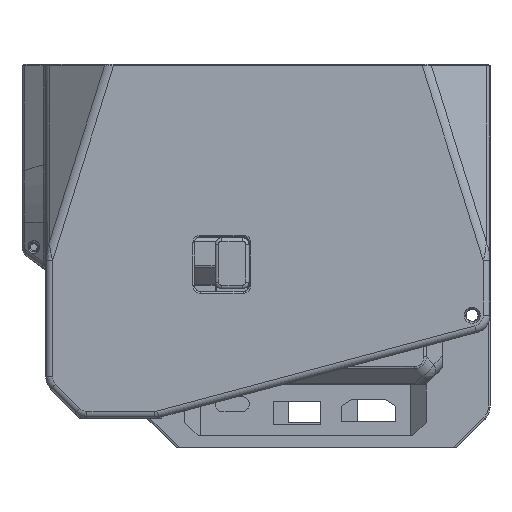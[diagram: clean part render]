
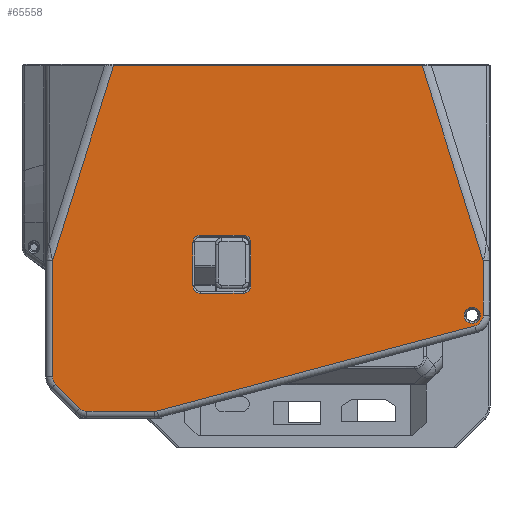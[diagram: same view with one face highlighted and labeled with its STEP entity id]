
A CAD part, left-side view. The second image highlights one B-rep face of the part: STEP entity #65558.
In plain terms, the highlighted planar face has unit normal (-1, 0, 0).
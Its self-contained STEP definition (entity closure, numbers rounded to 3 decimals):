
#415=FACE_BOUND('',#10939,.T.);
#416=FACE_BOUND('',#10940,.T.);
#1441=B_SPLINE_CURVE_WITH_KNOTS('',3,(#97196,#97197,#97198,#97199),
 .UNSPECIFIED.,.F.,.F.,(4,4),(1.528,1.571),
 .UNSPECIFIED.);
#1445=B_SPLINE_CURVE_WITH_KNOTS('',3,(#97250,#97251,#97252,#97253),
 .UNSPECIFIED.,.F.,.F.,(4,4),(-1.571,-1.528),
 .UNSPECIFIED.);
#2497=CIRCLE('',#70015,2.375);
#2501=CIRCLE('',#70021,2.25);
#2504=CIRCLE('',#70026,2.25);
#2507=CIRCLE('',#70031,2.25);
#2509=CIRCLE('',#70035,2.25);
#2512=CIRCLE('',#70040,2.75);
#2515=CIRCLE('',#70045,3.);
#2518=CIRCLE('',#70050,3.);
#2572=CIRCLE('',#70151,3.25);
#6861=FACE_OUTER_BOUND('',#10938,.T.);
#10938=EDGE_LOOP('',(#46404,#46405,#46406,#46407,#46408,#46409,#46410,#46411,
#46412,#46413,#46414,#46415,#46416,#46417));
#10939=EDGE_LOOP('',(#46418,#46419,#46420,#46421,#46422,#46423,#46424,#46425));
#10940=EDGE_LOOP('',(#46426));
#14662=LINE('',#97175,#20903);
#15409=LINE('',#103367,#21650);
#15410=LINE('',#103375,#21651);
#15411=LINE('',#103383,#21652);
#15412=LINE('',#103390,#21653);
#15413=LINE('',#103398,#21654);
#15414=LINE('',#103406,#21655);
#15415=LINE('',#103414,#21656);
#15416=LINE('',#103444,#21657);
#15437=LINE('',#103661,#21678);
#15438=LINE('',#103663,#21679);
#15439=LINE('',#103664,#21680);
#20903=VECTOR('',#76158,10.);
#21650=VECTOR('',#78977,10.);
#21651=VECTOR('',#78988,10.);
#21652=VECTOR('',#78999,10.);
#21653=VECTOR('',#79008,10.);
#21654=VECTOR('',#79019,10.);
#21655=VECTOR('',#79030,10.);
#21656=VECTOR('',#79041,10.);
#21657=VECTOR('',#79056,10.);
#21678=VECTOR('',#79283,10.);
#21679=VECTOR('',#79286,10.);
#21680=VECTOR('',#79287,10.);
#27163=VERTEX_POINT('',#97129);
#27167=VERTEX_POINT('',#97168);
#27170=VERTEX_POINT('',#97173);
#27172=VERTEX_POINT('',#97217);
#28049=VERTEX_POINT('',#103359);
#28050=VERTEX_POINT('',#103363);
#28051=VERTEX_POINT('',#103365);
#28052=VERTEX_POINT('',#103369);
#28053=VERTEX_POINT('',#103373);
#28054=VERTEX_POINT('',#103377);
#28055=VERTEX_POINT('',#103381);
#28056=VERTEX_POINT('',#103385);
#28057=VERTEX_POINT('',#103389);
#28058=VERTEX_POINT('',#103395);
#28059=VERTEX_POINT('',#103397);
#28060=VERTEX_POINT('',#103401);
#28061=VERTEX_POINT('',#103405);
#28062=VERTEX_POINT('',#103409);
#28063=VERTEX_POINT('',#103413);
#28064=VERTEX_POINT('',#103417);
#28065=VERTEX_POINT('',#103440);
#28095=VERTEX_POINT('',#103627);
#28098=VERTEX_POINT('',#103654);
#33347=EDGE_CURVE('',#27170,#27167,#14662,.T.);
#33349=EDGE_CURVE('',#27163,#27170,#1441,.T.);
#33355=EDGE_CURVE('',#27167,#27172,#1445,.T.);
#34777=EDGE_CURVE('',#28049,#28049,#2497,.T.);
#34781=EDGE_CURVE('',#28051,#28050,#15409,.T.);
#34783=EDGE_CURVE('',#28050,#28052,#2501,.T.);
#34785=EDGE_CURVE('',#28052,#28053,#15410,.T.);
#34787=EDGE_CURVE('',#28053,#28054,#2504,.T.);
#34789=EDGE_CURVE('',#28054,#28055,#15411,.T.);
#34791=EDGE_CURVE('',#28055,#28056,#2507,.T.);
#34792=EDGE_CURVE('',#28056,#28057,#15412,.T.);
#34794=EDGE_CURVE('',#28057,#28051,#2509,.T.);
#34796=EDGE_CURVE('',#28058,#28059,#15413,.T.);
#34798=EDGE_CURVE('',#28059,#28060,#2512,.T.);
#34800=EDGE_CURVE('',#28060,#28061,#15414,.T.);
#34802=EDGE_CURVE('',#28061,#28062,#2515,.T.);
#34804=EDGE_CURVE('',#28062,#28063,#15415,.T.);
#34806=EDGE_CURVE('',#28063,#28064,#2518,.T.);
#34810=EDGE_CURVE('',#28064,#28065,#15416,.T.);
#34883=EDGE_CURVE('',#28095,#28058,#2572,.T.);
#34890=EDGE_CURVE('',#27172,#28098,#15437,.T.);
#34891=EDGE_CURVE('',#28065,#27163,#15438,.T.);
#34892=EDGE_CURVE('',#28098,#28095,#15439,.T.);
#46404=ORIENTED_EDGE('',*,*,#33349,.F.);
#46405=ORIENTED_EDGE('',*,*,#34891,.F.);
#46406=ORIENTED_EDGE('',*,*,#34810,.F.);
#46407=ORIENTED_EDGE('',*,*,#34806,.F.);
#46408=ORIENTED_EDGE('',*,*,#34804,.F.);
#46409=ORIENTED_EDGE('',*,*,#34802,.F.);
#46410=ORIENTED_EDGE('',*,*,#34800,.F.);
#46411=ORIENTED_EDGE('',*,*,#34798,.F.);
#46412=ORIENTED_EDGE('',*,*,#34796,.F.);
#46413=ORIENTED_EDGE('',*,*,#34883,.F.);
#46414=ORIENTED_EDGE('',*,*,#34892,.F.);
#46415=ORIENTED_EDGE('',*,*,#34890,.F.);
#46416=ORIENTED_EDGE('',*,*,#33355,.F.);
#46417=ORIENTED_EDGE('',*,*,#33347,.F.);
#46418=ORIENTED_EDGE('',*,*,#34794,.F.);
#46419=ORIENTED_EDGE('',*,*,#34792,.F.);
#46420=ORIENTED_EDGE('',*,*,#34791,.F.);
#46421=ORIENTED_EDGE('',*,*,#34789,.F.);
#46422=ORIENTED_EDGE('',*,*,#34787,.F.);
#46423=ORIENTED_EDGE('',*,*,#34785,.F.);
#46424=ORIENTED_EDGE('',*,*,#34783,.F.);
#46425=ORIENTED_EDGE('',*,*,#34781,.F.);
#46426=ORIENTED_EDGE('',*,*,#34777,.F.);
#63147=PLANE('',#70158);
#65558=ADVANCED_FACE('',(#6861,#415,#416),#63147,.T.);
#70015=AXIS2_PLACEMENT_3D('',#103360,#78968,#78969);
#70021=AXIS2_PLACEMENT_3D('',#103371,#78982,#78983);
#70026=AXIS2_PLACEMENT_3D('',#103379,#78993,#78994);
#70031=AXIS2_PLACEMENT_3D('',#103387,#79004,#79005);
#70035=AXIS2_PLACEMENT_3D('',#103393,#79013,#79014);
#70040=AXIS2_PLACEMENT_3D('',#103402,#79024,#79025);
#70045=AXIS2_PLACEMENT_3D('',#103410,#79035,#79036);
#70050=AXIS2_PLACEMENT_3D('',#103418,#79046,#79047);
#70151=AXIS2_PLACEMENT_3D('',#103629,#79267,#79268);
#70158=AXIS2_PLACEMENT_3D('',#103662,#79284,#79285);
#76158=DIRECTION('',(0.,-1.,0.));
#78968=DIRECTION('center_axis',(-1.,0.,0.));
#78969=DIRECTION('ref_axis',(0.,-1.,0.));
#78977=DIRECTION('',(0.,0.,-1.));
#78982=DIRECTION('center_axis',(-1.,0.,0.));
#78983=DIRECTION('ref_axis',(0.,0.707,-0.707));
#78988=DIRECTION('',(0.,-1.,0.));
#78993=DIRECTION('center_axis',(-1.,0.,0.));
#78994=DIRECTION('ref_axis',(0.,-0.707,-0.707));
#78999=DIRECTION('',(0.,0.,1.));
#79004=DIRECTION('center_axis',(-1.,0.,0.));
#79005=DIRECTION('ref_axis',(0.,-0.707,0.707));
#79008=DIRECTION('',(0.,1.,0.));
#79013=DIRECTION('center_axis',(-1.,0.,0.));
#79014=DIRECTION('ref_axis',(0.,0.707,0.707));
#79019=DIRECTION('',(0.,0.966,-0.258));
#79024=DIRECTION('center_axis',(1.,0.,0.));
#79025=DIRECTION('ref_axis',(0.,-0.13,-0.991));
#79030=DIRECTION('',(0.,1.,0.));
#79035=DIRECTION('center_axis',(1.,0.,0.));
#79036=DIRECTION('ref_axis',(0.,0.383,-0.924));
#79041=DIRECTION('',(0.,0.707,0.707));
#79046=DIRECTION('center_axis',(1.,0.,0.));
#79047=DIRECTION('ref_axis',(0.,0.924,-0.383));
#79056=DIRECTION('',(0.,0.,1.));
#79267=DIRECTION('center_axis',(1.,0.,0.));
#79268=DIRECTION('ref_axis',(0.,-0.793,-0.609));
#79283=DIRECTION('',(0.,-0.299,-0.954));
#79284=DIRECTION('center_axis',(-1.,0.,0.));
#79285=DIRECTION('ref_axis',(0.,-1.,0.));
#79286=DIRECTION('',(0.,-0.299,0.954));
#79287=DIRECTION('',(0.,0.,-1.));
#97129=CARTESIAN_POINT('',(-135.,41.47,86.2));
#97168=CARTESIAN_POINT('',(-135.,-49.014,86.2));
#97173=CARTESIAN_POINT('',(-135.,41.314,86.2));
#97175=CARTESIAN_POINT('',(-135.,-35.963,86.2));
#97196=CARTESIAN_POINT('Ctrl Pts',(-135.,41.47,86.2));
#97197=CARTESIAN_POINT('Ctrl Pts',(-135.,41.418,86.2));
#97198=CARTESIAN_POINT('Ctrl Pts',(-135.,41.366,86.2));
#97199=CARTESIAN_POINT('Ctrl Pts',(-135.,41.314,86.2));
#97217=CARTESIAN_POINT('',(-135.,-49.17,86.2));
#97250=CARTESIAN_POINT('Ctrl Pts',(-135.,-49.014,86.2));
#97251=CARTESIAN_POINT('Ctrl Pts',(-135.,-49.066,86.2));
#97252=CARTESIAN_POINT('Ctrl Pts',(-135.,-49.118,86.2));
#97253=CARTESIAN_POINT('Ctrl Pts',(-135.,-49.17,86.2));
#103359=CARTESIAN_POINT('',(-135.,-61.45,12.95));
#103360=CARTESIAN_POINT('Origin',(-135.,-63.825,12.95));
#103363=CARTESIAN_POINT('',(-135.,18.179,21.65));
#103365=CARTESIAN_POINT('',(-135.,18.179,34.25));
#103367=CARTESIAN_POINT('',(-135.,18.179,26.938));
#103369=CARTESIAN_POINT('',(-135.,15.929,19.4));
#103371=CARTESIAN_POINT('Origin',(-135.,15.929,21.65));
#103373=CARTESIAN_POINT('',(-135.,3.429,19.4));
#103375=CARTESIAN_POINT('',(-135.,-6.335,19.4));
#103377=CARTESIAN_POINT('',(-135.,1.179,21.65));
#103379=CARTESIAN_POINT('Origin',(-135.,3.429,21.65));
#103381=CARTESIAN_POINT('',(-135.,1.179,34.25));
#103383=CARTESIAN_POINT('',(-135.,1.179,34.738));
#103385=CARTESIAN_POINT('',(-135.,3.429,36.5));
#103387=CARTESIAN_POINT('Origin',(-135.,3.429,34.25));
#103389=CARTESIAN_POINT('',(-135.,15.929,36.5));
#103390=CARTESIAN_POINT('',(-135.,11.915,36.5));
#103393=CARTESIAN_POINT('Origin',(-135.,15.929,34.25));
#103395=CARTESIAN_POINT('',(-135.,-64.665,9.81));
#103397=CARTESIAN_POINT('',(-135.,28.664,-15.157));
#103398=CARTESIAN_POINT('',(-135.,-39.242,3.009));
#103401=CARTESIAN_POINT('',(-135.,29.375,-15.25));
#103402=CARTESIAN_POINT('Origin',(-135.,29.375,-12.5));
#103405=CARTESIAN_POINT('',(-135.,49.304,-15.25));
#103406=CARTESIAN_POINT('',(-135.,12.762,-15.25));
#103409=CARTESIAN_POINT('',(-135.,51.425,-14.371));
#103410=CARTESIAN_POINT('Origin',(-135.,49.304,-12.25));
#103413=CARTESIAN_POINT('',(-135.,58.496,-7.3));
#103414=CARTESIAN_POINT('',(-135.,48.836,-16.961));
#103417=CARTESIAN_POINT('',(-135.,59.375,-5.179));
#103418=CARTESIAN_POINT('Origin',(-135.,56.375,-5.179));
#103440=CARTESIAN_POINT('',(-135.,59.375,29.092));
#103444=CARTESIAN_POINT('',(-135.,59.375,56.338));
#103627=CARTESIAN_POINT('',(-135.,-67.075,12.95));
#103629=CARTESIAN_POINT('Origin',(-135.,-63.825,12.95));
#103654=CARTESIAN_POINT('',(-135.,-67.075,29.092));
#103661=CARTESIAN_POINT('',(-135.,-55.487,66.052));
#103662=CARTESIAN_POINT('Origin',(-135.,-3.85,33.475));
#103663=CARTESIAN_POINT('',(-135.,47.787,66.052));
#103664=CARTESIAN_POINT('',(-135.,-67.075,25.838));
